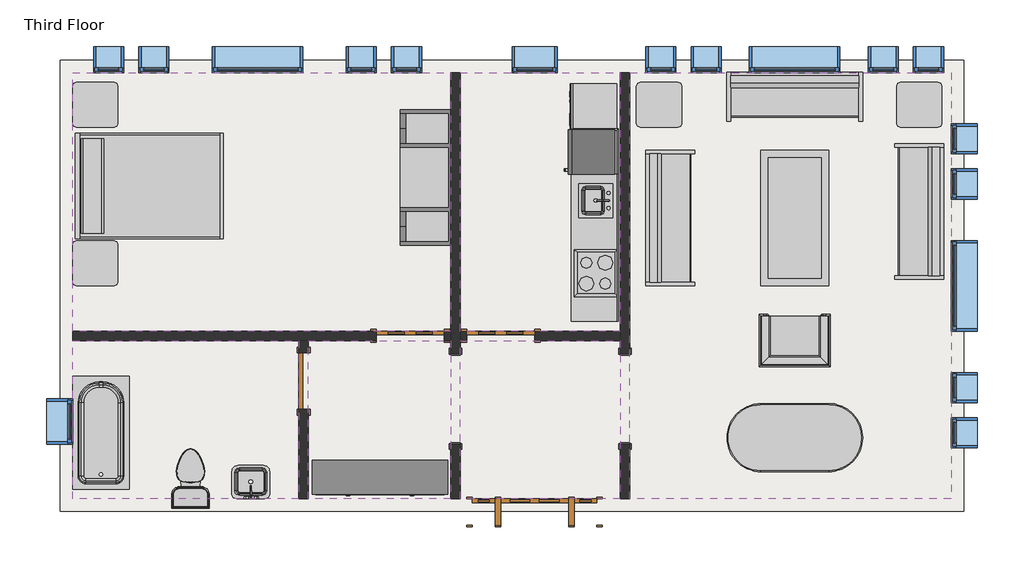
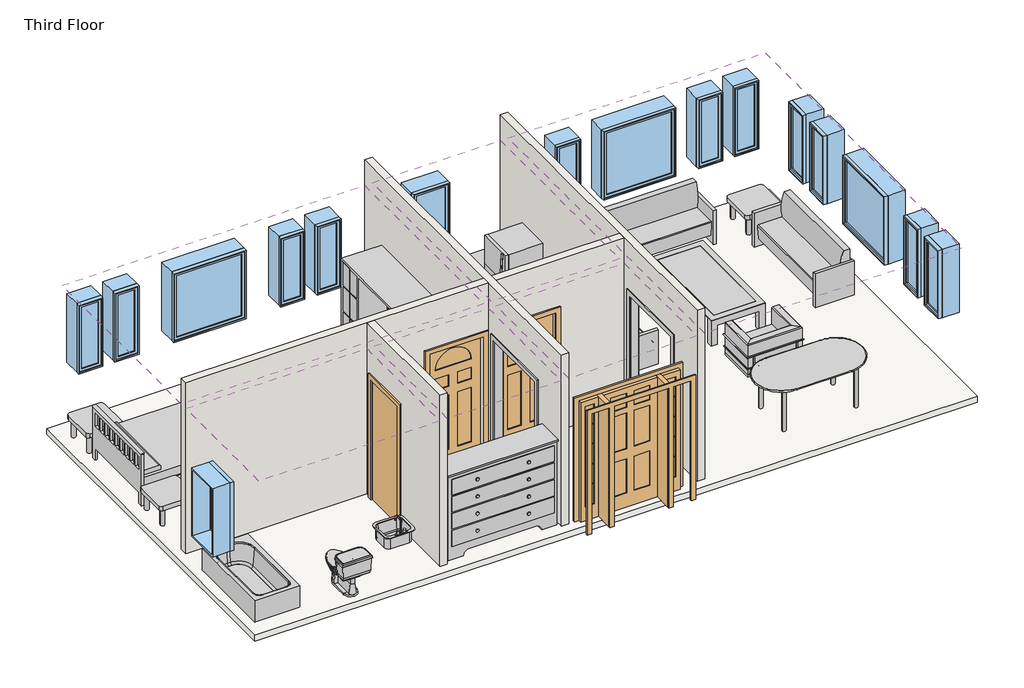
# One storey: 17 windows, 14 furniture elements, 6 coverings, 6 proxies, 5 walls, 4 doors, 4 flow terminals, 1 slab.
"""IFC4 building model written with IfcOpenShell, lengths in millimetres."""

from ifc_helpers import new_model, si_unit, frame, origin, place, context, project, spatial, polyline, outline, extrude, faceted_brep, transform, mapped, element, save
from components import proxy_dfcd9396, proxy_3c49123c, proxy_7a545507, proxy_f44482cc, proxy_ec3341c2, door_829da954, door_2e3b4da2, door_4d6c7550, door_dba5aa2e, flow_terminal_41332a36, flow_terminal_62a433f7, toilet_domestic_3d_toilet_domestic_3d_f7549cf7, toilet_domestic_3d_toilet_domestic_3d_183bbd19, tub_rectangular_3d_tub_rectangular_3d_15036965, furniture_096e7f55, chair_corbu_chair_corbu_2764bdef, furniture_6db689a5, furniture_7c473f12, furniture_cf0b6580, furniture_a4ffab56, furniture_cd93a443, furniture_2c34a4f9, furniture_3a588284, window_da97879f, window_d61ef850, window_60baf983, window_6eb97611

model = new_model("IFC4")

# Units and contexts
model_context = context("Model", 3, world=origin())
ifc_project = project(units=[si_unit("LENGTHUNIT", "METRE", prefix="MILLI")], contexts=[model_context])

# Site, building, storey
site = spatial("IfcSite", under=ifc_project)
building = spatial("IfcBuilding", under=site)
storey = spatial("IfcBuildingStorey", under=building, Name="Third Floor", Elevation=6096.0)

# Proxies
placement = place(None, origin())
proxy_shape = proxy_dfcd9396(model_context)
element("IfcBuildingElementProxy", 1, Name="Cook Top-4 Unit2 : 22\" x 20\"", ObjectType="Cook Top-4 Unit2 : 22\" x 20\"", at=placement, inside=storey, context=model_context, shape_type="MappedRepresentation", body=[
    mapped(proxy_shape, transform((-4167.1589563, 7568.5224391, 6096.0), x_axis=(0.0, 1.0000000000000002, 0.0), y_axis=(-1.0000000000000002, 0.0, 0.0), z_axis=(0.0, 0.0, 1.0))),
])
proxy_2_shape = proxy_3c49123c(model_context)
element("IfcBuildingElementProxy", 2, Name="Dishwasher : 24\" x 24\" x 34\"", ObjectType="Dishwasher : 24\" x 24\" x 34\"", at=placement, inside=storey, context=model_context, shape_type="MappedRepresentation", body=[
    mapped(proxy_2_shape, transform((-4459.0085211, 9434.1049706, 6096.0), x_axis=(0.0, 1.0000000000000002, 0.0), y_axis=(-1.0000000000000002, 0.0, 0.0), z_axis=(0.0, 0.0, 1.0))),
])
proxy_3_shape = proxy_7a545507(model_context)
element("IfcBuildingElementProxy", 3, Name="Kitchenette - Medium : 8'6\"", ObjectType="Kitchenette - Medium : 8'6\"", at=placement, inside=storey, context=model_context, shape_type="MappedRepresentation", body=[
    mapped(proxy_3_shape, transform((-3862.3589563, 8197.4847342, 6096.0), x_axis=(0.0, 1.0000000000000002, 0.0), y_axis=(-1.0000000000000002, 0.0, 0.0), z_axis=(0.0, 0.0, 1.0))),
])
proxy_4_shape = proxy_f44482cc(model_context)
element("IfcBuildingElementProxy", 4, Name="Opening-Cased : 48\" x 84\"", ObjectType="Opening-Cased : 48\" x 84\"", at=placement, inside=storey, context=model_context, shape_type="MappedRepresentation", body=[
    mapped(proxy_4_shape, transform((-3773.4589563, 5882.4203434, 6096.0), x_axis=(0.0, 1.0, 0.0), y_axis=(-1.0, 0.0, 0.0), z_axis=(0.0, 0.0, 1.0))),
])
element("IfcBuildingElementProxy", 5, Name="Opening-Cased : 48\" x 84\"", ObjectType="Opening-Cased : 48\" x 84\"", at=placement, inside=storey, context=model_context, shape_type="MappedRepresentation", body=[
    mapped(proxy_4_shape, transform((-6059.4589563, 5866.04303, 6096.0), x_axis=(0.0, -1.0, 0.0), y_axis=(1.0, 0.0, 0.0), z_axis=(0.0, 0.0, 1.0))),
])
proxy_5_shape = proxy_ec3341c2(model_context)
element("IfcBuildingElementProxy", 6, Name="Refrigerator : 24\" x 25\" LH", ObjectType="Refrigerator : 24\" x 25\" LH", at=placement, inside=storey, context=model_context, shape_type="MappedRepresentation", body=[
    mapped(proxy_5_shape, transform((-4212.8079278, 9200.4724391, 6096.0), x_axis=(0.0, 1.0000000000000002, 0.0), y_axis=(-1.0000000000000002, 0.0, 0.0), z_axis=(0.0, 0.0, 1.0))),
])

# Coverings
element("IfcCovering", 7, ObjectType="GWB on Mtl. Stud", at=placement, inside=storey, context=model_context, shape_type="SweptSolid", body=[
    extrude(outline(polyline([(-11217.2464563, 10270.0191867), (-6122.9589563, 10270.0191867), (-6122.9589563, 6787.0441867), (-11217.2464563, 6787.0441867), (-11217.2464563, 10270.0191867)])), frame((0.0, 0.0, 8686.8), z_axis=(0.0, 0.0, 1.0), x_axis=(1.0, 0.0, 0.0)), (0.0, 0.0, 1.0), 107.95),
])
element("IfcCovering", 8, ObjectType="GWB on Mtl. Stud", at=placement, inside=storey, context=model_context, shape_type="SweptSolid", body=[
    extrude(outline(polyline([(-5995.9589563, 6787.0441867), (-5995.9589563, 10270.0191867), (-3836.9589563, 10270.0191867), (-3836.9589563, 6787.0441867), (-5995.9589563, 6787.0441867)])), frame((0.0, 0.0, 8686.8), z_axis=(0.0, 0.0, 1.0), x_axis=(1.0, 0.0, 0.0)), (0.0, 0.0, 1.0), 107.95),
])
element("IfcCovering", 9, ObjectType="GWB on Mtl. Stud", at=placement, inside=storey, context=model_context, shape_type="SweptSolid", body=[
    extrude(outline(polyline([(-3709.9589563, 4526.4441867), (-3709.9589563, 10270.0191867), (622.3285437, 10270.0191867), (622.3285437, 4526.4441867), (-3709.9589563, 4526.4441867)])), frame((0.0, 0.0, 8686.8), z_axis=(0.0, 0.0, 1.0), x_axis=(1.0, 0.0, 0.0)), (0.0, 0.0, 1.0), 107.95),
])
element("IfcCovering", 10, ObjectType="GWB on Mtl. Stud", at=placement, inside=storey, context=model_context, shape_type="SweptSolid", body=[
    extrude(outline(polyline([(-3836.9589563, 4526.4441867), (-5995.9589563, 4526.4441867), (-5995.9589563, 6660.0441867), (-3836.9589563, 6660.0441867), (-3836.9589563, 4526.4441867)])), frame((0.0, 0.0, 8686.8), z_axis=(0.0, 0.0, 1.0), x_axis=(1.0, 0.0, 0.0)), (0.0, 0.0, 1.0), 107.95),
])
element("IfcCovering", 11, ObjectType="GWB on Mtl. Stud", at=placement, inside=storey, context=model_context, shape_type="SweptSolid", body=[
    extrude(outline(polyline([(-8169.2464563, 6660.0441867), (-8169.2464563, 4526.4441867), (-11217.2464563, 4526.4441867), (-11217.2464563, 6660.0441867), (-8169.2464563, 6660.0441867)])), frame((0.0, 0.0, 8686.8), z_axis=(0.0, 0.0, 1.0), x_axis=(1.0, 0.0, 0.0)), (0.0, 0.0, 1.0), 107.95),
])
element("IfcCovering", 12, ObjectType="GWB on Mtl. Stud", at=placement, inside=storey, context=model_context, shape_type="SweptSolid", body=[
    extrude(outline(polyline([(-6122.9589563, 4526.4441867), (-8042.2464563, 4526.4441867), (-8042.2464563, 6660.0441867), (-6122.9589563, 6660.0441867), (-6122.9589563, 4526.4441867)])), frame((0.0, 0.0, 8686.8), z_axis=(0.0, 0.0, 1.0), x_axis=(1.0, 0.0, 0.0)), (0.0, 0.0, 1.0), 107.95),
])

# Doors
door_shape = door_829da954(model_context)
element("IfcDoor", 13, ObjectType="Single-Decorative 2 : 36\" x 84\"", at=placement, inside=storey, context=model_context, shape_type="MappedRepresentation", body=[
    mapped(door_shape, transform((-5449.8589563, 6723.5441867, 6096.0), x_axis=(-1.0, 0.0, 0.0), y_axis=(0.0, -1.0, 0.0), z_axis=(0.0, 0.0, 1.0))),
])
door_2_shape = door_2e3b4da2(model_context)
element("IfcDoor", 14, ObjectType="Single-Decorative 2 : 36\" x 84\"", at=placement, inside=storey, context=model_context, shape_type="MappedRepresentation", body=[
    mapped(door_2_shape, transform((-6669.0589563, 6723.5441867, 6096.0), x_axis=(1.0, 0.0, 0.0), y_axis=(0.0, 1.0, 0.0), z_axis=(0.0, 0.0, 1.0))),
])
door_3_shape = door_4d6c7550(model_context)
element("IfcDoor", 15, ObjectType="Single-Flush : 30\" x 84\"", at=placement, inside=storey, context=model_context, shape_type="MappedRepresentation", body=[
    mapped(door_3_shape, transform((-8105.7464563, 6113.9441867, 6096.0), x_axis=(0.0, 1.0, 0.0), y_axis=(-1.0, 0.0, 0.0), z_axis=(0.0, 0.0, 1.0))),
])
door_4_shape = door_dba5aa2e(model_context)
element("IfcDoor", 16, ObjectType="Single-Raised Panel with Sidelights : 36\" x 84\"", at=placement, inside=storey, context=model_context, shape_type="MappedRepresentation", body=[
    mapped(door_4_shape, transform((-4992.6589563, 4350.2316867, 6096.0), x_axis=(-1.0, 0.0, 0.0), y_axis=(0.0, -1.0, 0.0), z_axis=(0.0, 0.0, 1.0))),
])

# Flow terminals
flow_terminal_shape = flow_terminal_41332a36(model_context)
element("IfcFlowTerminal", 17, ObjectType="Sink Kitchen-Island : 18\" x 18\"", at=placement, inside=storey, context=model_context, shape_type="MappedRepresentation", body=[
    mapped(flow_terminal_shape, transform((-4169.5043574, 8530.7331986, 6081.6), x_axis=(0.0, 1.0000000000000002, 0.0), y_axis=(-1.0000000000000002, 0.0, 0.0), z_axis=(0.0, 0.0, 1.0))),
])
flow_terminal_2_shape = flow_terminal_62a433f7(model_context)
element("IfcFlowTerminal", 18, ObjectType="Sink Vanity-Square : 20\" x 18\"", at=placement, inside=storey, context=model_context, shape_type="MappedRepresentation", body=[
    mapped(flow_terminal_2_shape, transform((-8801.2572158, 4706.5895878, 6096.0), x_axis=(-1.0, 0.0, 0.0), y_axis=(0.0, -1.0, 0.0), z_axis=(0.0, 0.0, 1.0))),
])
toilet_domestic_3d_toilet_domestic_3d_shape = toilet_domestic_3d_toilet_domestic_3d_f7549cf7(model_context)
toilet_domestic_3d_toilet_domestic_3d_2_shape = toilet_domestic_3d_toilet_domestic_3d_183bbd19(model_context)
element("IfcFlowTerminal", 19, ObjectType="Toilet-Domestic-3D : Toilet-Domestic-3D", at=placement, inside=storey, context=model_context, shape_type="MappedRepresentation", body=[
    mapped(toilet_domestic_3d_toilet_domestic_3d_shape, transform((-9629.7464563, 4894.7441867, 6096.0), x_axis=(-1.0, 0.0, 0.0), y_axis=(0.0, -1.0, 0.0), z_axis=(0.0, 0.0, 1.0))),
    mapped(toilet_domestic_3d_toilet_domestic_3d_2_shape, transform((-9629.7464563, 4894.7441867, 6096.0), x_axis=(-1.0, 0.0, 0.0), y_axis=(0.0, -1.0, 0.0), z_axis=(0.0, 0.0, 1.0))),
])
tub_rectangular_3d_tub_rectangular_3d_shape = tub_rectangular_3d_tub_rectangular_3d_15036965(model_context)
element("IfcFlowTerminal", 20, ObjectType="Tub-Rectangular-3D : Tub-Rectangular-3D", at=placement, inside=storey, context=model_context, shape_type="MappedRepresentation", body=[
    mapped(tub_rectangular_3d_tub_rectangular_3d_shape, transform((-11393.4589563, 5765.6346554, 6096.0), x_axis=(0.0, 1.0, 0.0), y_axis=(-1.0, 0.0, 0.0), z_axis=(0.0, 0.0, 1.0))),
])

# Furniture
furniture_shape = furniture_096e7f55(model_context)
element("IfcFurniture", 21, ObjectType="Bed-Shaker : Double 56\" x 78\"", at=placement, inside=storey, context=model_context, shape_type="MappedRepresentation", body=[
    mapped(furniture_shape, transform((-11172.0857802, 8763.4816867, 6096.0), x_axis=(0.0, 1.0, 0.0), y_axis=(-1.0, 0.0, 0.0), z_axis=(0.0, 0.0, 1.0))),
])
chair_corbu_chair_corbu_shape = chair_corbu_chair_corbu_2764bdef(model_context)
element("IfcFurniture", 22, ObjectType="Chair-Corbu : Chair-Corbu", at=placement, inside=storey, context=model_context, shape_type="MappedRepresentation", body=[
    mapped(chair_corbu_chair_corbu_shape, transform((-914.0851858, 7126.8212359, 6096.0), x_axis=(-1.0, 0.0, 0.0), y_axis=(0.0, -1.0, 0.0), z_axis=(0.0, 0.0, 1.0))),
])
furniture_2_shape = furniture_6db689a5(model_context)
element("IfcFurniture", 23, ObjectType="Counter Top w Sink Hole : 24\" Depth", at=placement, inside=storey, context=model_context, shape_type="MappedRepresentation", body=[
    mapped(furniture_2_shape, transform((-3862.3589563, 8121.2847342, 6081.6), x_axis=(0.0, 1.0000000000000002, 0.0), y_axis=(-1.0000000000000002, 0.0, 0.0), z_axis=(0.0, 0.0, 1.0))),
])
furniture_3_shape = furniture_7c473f12(model_context)
element("IfcFurniture", 24, ObjectType="Dresser : 72\" x 60\" x 18\"", at=placement, inside=storey, context=model_context, shape_type="MappedRepresentation", body=[
    mapped(furniture_3_shape, transform((-6806.2656965, 5181.7071408, 6096.0), x_axis=(1.0, 0.0, 0.0), y_axis=(0.0, 1.0, 0.0), z_axis=(0.0, 0.0, 1.0))),
])
furniture_4_shape = furniture_cf0b6580(model_context)
element("IfcFurniture", 25, ObjectType="Entertainment Center : 72\" x 72\" x 24\"", at=placement, inside=storey, context=model_context, shape_type="MappedRepresentation", body=[
    mapped(furniture_4_shape, transform((-6021.3589563, 8857.1441867, 6096.0), x_axis=(0.0, -1.0, 0.0), y_axis=(1.0, 0.0, 0.0), z_axis=(0.0, 0.0, 1.0))),
])
furniture_5_shape = furniture_a4ffab56(model_context)
element("IfcFurniture", 26, ObjectType="Sofa : 72\"", at=placement, inside=storey, context=model_context, shape_type="MappedRepresentation", body=[
    mapped(furniture_5_shape, transform((-3017.704858, 8242.2611949, 6096.0), x_axis=(0.0, 1.0, 0.0), y_axis=(-1.0, 0.0, 0.0), z_axis=(0.0, 0.0, 1.0))),
])
element("IfcFurniture", 27, ObjectType="Sofa : 72\"", at=placement, inside=storey, context=model_context, shape_type="MappedRepresentation", body=[
    mapped(furniture_5_shape, transform((-1557.8294481, 9801.5748071, 6096.0), x_axis=(1.0, 0.0, 0.0), y_axis=(0.0, 1.0, 0.0), z_axis=(0.0, 0.0, 1.0))),
])
element("IfcFurniture", 28, ObjectType="Sofa : 72\"", at=placement, inside=storey, context=model_context, shape_type="MappedRepresentation", body=[
    mapped(furniture_5_shape, transform((42.7869453, 8470.3146785, 6096.0), x_axis=(0.0, -1.0, 0.0), y_axis=(1.0, 0.0, 0.0), z_axis=(0.0, 0.0, 1.0))),
])
furniture_6_shape = furniture_cd93a443(model_context)
element("IfcFurniture", 29, ObjectType="Table-Coffee : 36\" x 72\" x 18\"", at=placement, inside=storey, context=model_context, shape_type="MappedRepresentation", body=[
    mapped(furniture_6_shape, transform((-1392.2478785, 8294.36592, 6096.0), x_axis=(0.0, 1.0, 0.0), y_axis=(-1.0, 0.0, 0.0), z_axis=(0.0, 0.0, 1.0))),
])
furniture_7_shape = furniture_2c34a4f9(model_context)
element("IfcFurniture", 30, ObjectType="Table-Dining Oval : 36\" x 72\"", at=placement, inside=storey, context=model_context, shape_type="MappedRepresentation", body=[
    mapped(furniture_7_shape, transform((-1085.6392842, 5710.0425473, 6096.0), x_axis=(1.0, 0.0, 0.0), y_axis=(0.0, 1.0, 0.0), z_axis=(0.0, 0.0, 1.0))),
])
furniture_8_shape = furniture_3a588284(model_context)
element("IfcFurniture", 31, ObjectType="Table-End : 24\" x 24\"", at=placement, inside=storey, context=model_context, shape_type="MappedRepresentation", body=[
    mapped(furniture_8_shape, transform((-119.5925866, 9684.2316867, 6096.0), x_axis=(1.0, 0.0, 0.0), y_axis=(0.0, 1.0, 0.0), z_axis=(0.0, 0.0, 1.0))),
])
element("IfcFurniture", 32, ObjectType="Table-End : 24\" x 24\"", at=placement, inside=storey, context=model_context, shape_type="MappedRepresentation", body=[
    mapped(furniture_8_shape, transform((-11220.9800866, 7550.6316867, 6096.0), x_axis=(1.0, 0.0, 0.0), y_axis=(0.0, 1.0, 0.0), z_axis=(0.0, 0.0, 1.0))),
])
element("IfcFurniture", 33, ObjectType="Table-End : 24\" x 24\"", at=placement, inside=storey, context=model_context, shape_type="MappedRepresentation", body=[
    mapped(furniture_8_shape, transform((-11220.9800866, 9684.2316867, 6096.0), x_axis=(1.0, 0.0, 0.0), y_axis=(0.0, 1.0, 0.0), z_axis=(0.0, 0.0, 1.0))),
])
element("IfcFurniture", 34, ObjectType="Table-End : 24\" x 24\"", at=placement, inside=storey, context=model_context, shape_type="MappedRepresentation", body=[
    mapped(furniture_8_shape, transform((-3624.7925866, 9684.2316867, 6096.0), x_axis=(1.0, 0.0, 0.0), y_axis=(0.0, 1.0, 0.0), z_axis=(0.0, 0.0, 1.0))),
])

# Slab
element("IfcSlab", 35, ObjectType="LW Concrete on Metal Deck", at=placement, inside=storey, context=model_context, shape_type="SweptSolid", body=[
    extrude(outline(polyline([(787.4285437, 10435.1191867), (787.4285437, 4361.3441867), (-11382.3464563, 4361.3441867), (-11382.3464563, 10435.1191867), (787.4285437, 10435.1191867)])), frame((0.0, 0.0, 5991.225), z_axis=(0.0, 0.0, 1.0), x_axis=(1.0, 0.0, 0.0)), (0.0, 0.0, 1.0), 104.775),
])

# Walls
element("IfcWall", 36, ObjectType="Interior - 5\" Partition (2-hr)", at=placement, inside=storey, context=model_context, shape_type="Brep", body=[
    faceted_brep([(-3836.9589563, 10270.0191867, 6096.0), (-3836.9589563, 6787.0441867, 6096.0), (-3836.9589563, 6660.0441867, 6096.0), (-3836.9589563, 6483.8316867, 6096.0), (-3836.9589563, 6483.8316867, 8229.6), (-3836.9589563, 5264.6316867, 8229.6), (-3836.9589563, 5264.6316867, 6096.0), (-3836.9589563, 4526.4441867, 6096.0), (-3836.9589563, 4526.4441867, 9144.0), (-3836.9589563, 6660.0441867, 9144.0), (-3836.9589563, 6787.0441867, 9144.0), (-3836.9589563, 10270.0191867, 9144.0), (-3709.9589563, 6483.8316867, 8229.6), (-3709.9589563, 6483.8316867, 6096.0), (-3709.9589563, 10270.0191867, 6096.0), (-3709.9589563, 10270.0191867, 9144.0), (-3709.9589563, 4526.4441867, 9144.0), (-3709.9589563, 4526.4441867, 6096.0), (-3709.9589563, 5264.6316867, 6096.0), (-3709.9589563, 5264.6316867, 8229.6)], [[[0, 1, 2, 3, 4, 5, 6, 7, 8, 9, 10, 11]], [[12, 13, 14, 15, 16, 17, 18, 19]], [[14, 13, 3, 2, 1, 0]], [[18, 17, 7, 6]], [[11, 10, 9, 8, 16, 15]], [[0, 11, 15, 14]], [[8, 7, 17, 16]], [[6, 5, 19, 18]], [[4, 3, 13, 12]], [[5, 4, 12, 19]]]),
])
element("IfcWall", 37, ObjectType="Interior - 5\" Partition (2-hr)", at=placement, inside=storey, context=model_context, shape_type="Brep", body=[
    faceted_brep([(-6122.9589563, 5264.6316867, 8229.6), (-6122.9589563, 5264.6316867, 6096.0), (-6122.9589563, 4526.4441867, 6096.0), (-6122.9589563, 4526.4441867, 9144.0), (-6122.9589563, 6660.0441867, 9144.0), (-6122.9589563, 6787.0441867, 9144.0), (-6122.9589563, 10270.0191867, 9144.0), (-6122.9589563, 10270.0191867, 6096.0), (-6122.9589563, 6787.0441867, 6096.0), (-6122.9589563, 6660.0441867, 6096.0), (-6122.9589563, 6483.8316867, 6096.0), (-6122.9589563, 6483.8316867, 8229.6), (-5995.9589563, 4526.4441867, 6096.0), (-5995.9589563, 5264.6316867, 6096.0), (-5995.9589563, 5264.6316867, 8229.6), (-5995.9589563, 6483.8316867, 8229.6), (-5995.9589563, 6483.8316867, 6096.0), (-5995.9589563, 6660.0441867, 6096.0), (-5995.9589563, 6787.0441867, 6096.0), (-5995.9589563, 10270.0191867, 6096.0), (-5995.9589563, 10270.0191867, 9144.0), (-5995.9589563, 6787.0441867, 9144.0), (-5995.9589563, 6660.0441867, 9144.0), (-5995.9589563, 4526.4441867, 9144.0)], [[[0, 1, 2, 3, 4, 5, 6, 7, 8, 9, 10, 11]], [[12, 13, 14, 15, 16, 17, 18, 19, 20, 21, 22, 23]], [[2, 1, 13, 12]], [[10, 9, 8, 7, 19, 18, 17, 16]], [[6, 5, 4, 3, 23, 22, 21, 20]], [[7, 6, 20, 19]], [[3, 2, 12, 23]], [[16, 15, 11, 10]], [[14, 13, 1, 0]], [[15, 14, 0, 11]]]),
])
element("IfcWall", 38, ObjectType="Interior - 5\" Partition (2-hr)", at=placement, inside=storey, context=model_context, shape_type="Brep", body=[
    faceted_brep([(-6211.8589563, 6660.0441867, 8229.6), (-6211.8589563, 6660.0441867, 6096.0), (-6122.9589563, 6660.0441867, 6096.0), (-6122.9589563, 6660.0441867, 9144.0), (-8042.2464563, 6660.0441867, 9144.0), (-8169.2464563, 6660.0441867, 9144.0), (-11217.2464563, 6660.0441867, 9144.0), (-11217.2464563, 6660.0441867, 6096.0), (-8169.2464563, 6660.0441867, 6096.0), (-8042.2464563, 6660.0441867, 6096.0), (-7126.2589563, 6660.0441867, 6096.0), (-7126.2589563, 6660.0441867, 8229.6), (-6122.9589563, 6787.0441867, 6096.0), (-6211.8589563, 6787.0441867, 6096.0), (-6211.8589563, 6787.0441867, 8229.6), (-7126.2589563, 6787.0441867, 8229.6), (-7126.2589563, 6787.0441867, 6096.0), (-11217.2464563, 6787.0441867, 6096.0), (-11217.2464563, 6787.0441867, 9144.0), (-6122.9589563, 6787.0441867, 9144.0)], [[[0, 1, 2, 3, 4, 5, 6, 7, 8, 9, 10, 11]], [[12, 13, 14, 15, 16, 17, 18, 19]], [[2, 1, 13, 12]], [[10, 9, 8, 7, 17, 16]], [[6, 5, 4, 3, 19, 18]], [[3, 2, 12, 19]], [[7, 6, 18, 17]], [[14, 13, 1, 0]], [[15, 14, 0, 11]], [[16, 15, 11, 10]]]),
])
element("IfcWall", 39, ObjectType="Interior - 5\" Partition (2-hr)", at=placement, inside=storey, context=model_context, shape_type="SweptSolid", body=[
    extrude(outline(polyline([(6660.0441867, 6096.0), (6494.9441867, 6096.0), (6494.9441867, 8229.6), (5732.9441867, 8229.6), (5732.9441867, 6096.0), (4526.4441867, 6096.0), (4526.4441867, 9144.0), (6660.0441867, 9144.0), (6660.0441867, 6096.0)])), frame((-8169.2464563, 0.0, 0.0), z_axis=(1.0, 0.0, 0.0), x_axis=(0.0, 1.0, 0.0)), (0.0, 0.0, 1.0), 127.0),
])
element("IfcWall", 40, ObjectType="Interior - 5\" Partition (2-hr)", at=placement, inside=storey, context=model_context, shape_type="SweptSolid", body=[
    extrude(outline(polyline([(6096.0, -5995.9589563), (6096.0, -5907.0589563), (8229.6, -5907.0589563), (8229.6, -4992.6589563), (6096.0, -4992.6589563), (6096.0, -3836.9589563), (9144.0, -3836.9589563), (9144.0, -5995.9589563), (6096.0, -5995.9589563)])), frame((0.0, 6660.0441867, 0.0), z_axis=(0.0, 1.0, 0.0), x_axis=(0.0, 0.0, 1.0)), (0.0, 0.0, 1.0), 127.0),
])

# Windows
window_shape = window_da97879f(model_context)
element("IfcWindow", 41, ObjectType="Fixed : 16\" x 48\"", at=placement, inside=storey, context=model_context, shape_type="MappedRepresentation", body=[
    mapped(window_shape, transform((-10771.1589563, 10446.2316867, 6096.0), x_axis=(-1.0, 0.0, 0.0), y_axis=(0.0, -1.0, 0.0), z_axis=(0.0, 0.0, 1.0))),
])
element("IfcWindow", 42, ObjectType="Fixed : 16\" x 48\"", at=placement, inside=storey, context=model_context, shape_type="MappedRepresentation", body=[
    mapped(window_shape, transform((-10161.5589563, 10446.2316867, 6096.0), x_axis=(-1.0, 0.0, 0.0), y_axis=(0.0, -1.0, 0.0), z_axis=(0.0, 0.0, 1.0))),
])
element("IfcWindow", 43, ObjectType="Fixed : 16\" x 48\"", at=placement, inside=storey, context=model_context, shape_type="MappedRepresentation", body=[
    mapped(window_shape, transform((-3328.9589563, 10446.2316867, 6096.0), x_axis=(-1.0, 0.0, 0.0), y_axis=(0.0, -1.0, 0.0), z_axis=(0.0, 0.0, 1.0))),
])
element("IfcWindow", 44, ObjectType="Fixed : 16\" x 48\"", at=placement, inside=storey, context=model_context, shape_type="MappedRepresentation", body=[
    mapped(window_shape, transform((-2719.3589563, 10446.2316867, 6096.0), x_axis=(-1.0, 0.0, 0.0), y_axis=(0.0, -1.0, 0.0), z_axis=(0.0, 0.0, 1.0))),
])
element("IfcWindow", 45, ObjectType="Fixed : 16\" x 48\"", at=placement, inside=storey, context=model_context, shape_type="MappedRepresentation", body=[
    mapped(window_shape, transform((798.5410437, 9417.5316867, 6096.0), x_axis=(0.0, 1.0, 0.0), y_axis=(-1.0, 0.0, 0.0), z_axis=(0.0, 0.0, 1.0))),
])
element("IfcWindow", 46, ObjectType="Fixed : 16\" x 48\"", at=placement, inside=storey, context=model_context, shape_type="MappedRepresentation", body=[
    mapped(window_shape, transform((798.5410437, 8807.9316867, 6096.0), x_axis=(0.0, 1.0, 0.0), y_axis=(-1.0, 0.0, 0.0), z_axis=(0.0, 0.0, 1.0))),
])
window_2_shape = window_d61ef850(model_context)
element("IfcWindow", 47, ObjectType="Fixed : 16\" x 48\"", at=placement, inside=storey, context=model_context, shape_type="MappedRepresentation", body=[
    mapped(window_2_shape, transform((-6681.7589563, 10446.2316867, 6096.0), x_axis=(1.0, 0.0, 0.0), y_axis=(0.0, 1.0, 0.0), z_axis=(0.0, 0.0, 1.0))),
])
element("IfcWindow", 48, ObjectType="Fixed : 16\" x 48\"", at=placement, inside=storey, context=model_context, shape_type="MappedRepresentation", body=[
    mapped(window_2_shape, transform((-7291.3589563, 10446.2316867, 6096.0), x_axis=(1.0, 0.0, 0.0), y_axis=(0.0, 1.0, 0.0), z_axis=(0.0, 0.0, 1.0))),
])
element("IfcWindow", 49, ObjectType="Fixed : 16\" x 48\"", at=placement, inside=storey, context=model_context, shape_type="MappedRepresentation", body=[
    mapped(window_2_shape, transform((354.0410437, 10446.2316867, 6096.0), x_axis=(1.0, 0.0, 0.0), y_axis=(0.0, 1.0, 0.0), z_axis=(0.0, 0.0, 1.0))),
])
element("IfcWindow", 50, ObjectType="Fixed : 16\" x 48\"", at=placement, inside=storey, context=model_context, shape_type="MappedRepresentation", body=[
    mapped(window_2_shape, transform((-255.5589563, 10446.2316867, 6096.0), x_axis=(1.0, 0.0, 0.0), y_axis=(0.0, 1.0, 0.0), z_axis=(0.0, 0.0, 1.0))),
])
element("IfcWindow", 51, ObjectType="Fixed : 16\" x 48\"", at=placement, inside=storey, context=model_context, shape_type="MappedRepresentation", body=[
    mapped(window_2_shape, transform((798.5410437, 5378.9316867, 6096.0), x_axis=(0.0, -1.0, 0.0), y_axis=(1.0, 0.0, 0.0), z_axis=(0.0, 0.0, 1.0))),
])
element("IfcWindow", 52, ObjectType="Fixed : 16\" x 48\"", at=placement, inside=storey, context=model_context, shape_type="MappedRepresentation", body=[
    mapped(window_2_shape, transform((798.5410437, 5988.5316867, 6096.0), x_axis=(0.0, -1.0, 0.0), y_axis=(1.0, 0.0, 0.0), z_axis=(0.0, 0.0, 1.0))),
])
window_3_shape = window_60baf983(model_context)
element("IfcWindow", 53, ObjectType="Fixed : 24\" x 48\"", at=placement, inside=storey, context=model_context, shape_type="MappedRepresentation", body=[
    mapped(window_3_shape, transform((-5030.7589563, 10446.2316867, 6096.0), x_axis=(-1.0, 0.0, 0.0), y_axis=(0.0, -1.0, 0.0), z_axis=(0.0, 0.0, 1.0))),
])
element("IfcWindow", 54, ObjectType="Fixed : 24\" x 48\"", at=placement, inside=storey, context=model_context, shape_type="MappedRepresentation", body=[
    mapped(window_3_shape, transform((-11393.4589563, 5531.3316867, 6096.0), x_axis=(0.0, -1.0, 0.0), y_axis=(1.0, 0.0, 0.0), z_axis=(0.0, 0.0, 1.0))),
])
window_4_shape = window_6eb97611(model_context)
element("IfcWindow", 55, ObjectType="Fixed : 48\" x 48\"", at=placement, inside=storey, context=model_context, shape_type="MappedRepresentation", body=[
    mapped(window_4_shape, transform((-8764.5589563, 10446.2316867, 6096.0), x_axis=(-1.0, 0.0, 0.0), y_axis=(0.0, -1.0, 0.0), z_axis=(0.0, 0.0, 1.0))),
])
element("IfcWindow", 56, ObjectType="Fixed : 48\" x 48\"", at=placement, inside=storey, context=model_context, shape_type="MappedRepresentation", body=[
    mapped(window_4_shape, transform((-1525.5589563, 10446.2316867, 6096.0), x_axis=(-1.0, 0.0, 0.0), y_axis=(0.0, -1.0, 0.0), z_axis=(0.0, 0.0, 1.0))),
])
element("IfcWindow", 57, ObjectType="Fixed : 48\" x 48\"", at=placement, inside=storey, context=model_context, shape_type="MappedRepresentation", body=[
    mapped(window_4_shape, transform((798.5410437, 7436.3316867, 6096.0), x_axis=(0.0, 1.0, 0.0), y_axis=(-1.0, 0.0, 0.0), z_axis=(0.0, 0.0, 1.0))),
])

save(model, "model.ifc")
